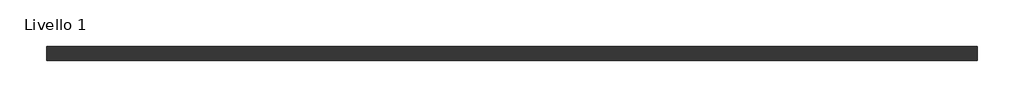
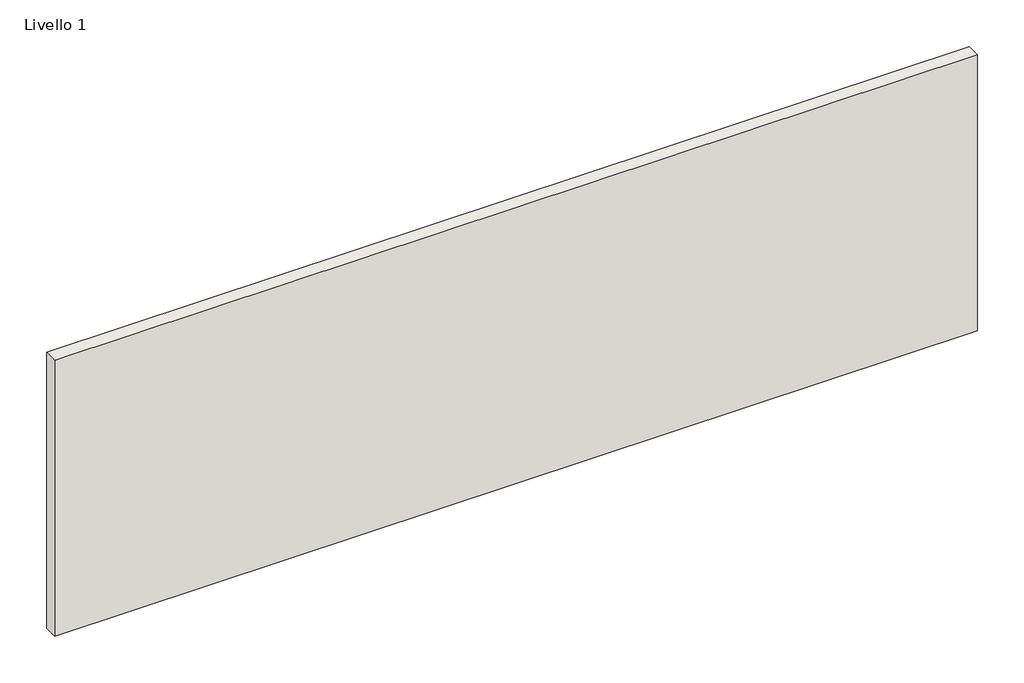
# One storey: 1 wall.
"""IFC4 building model written with IfcOpenShell, lengths in millimetres."""

import ifcopenshell
import ifcopenshell.guid

model = None  # the IFC model being written
_history = None  # IfcOwnerHistory: only IFC2X3 demands one
_inside = {}  # id of a spatial element -> (the spatial element, [elements in it])
_under = {}  # id of a project, library or spatial element -> (it, [spatial elements below it])
_declared = {}  # id of a project -> (the project, [libraries it declares])
_typed = {}  # id of a type object -> (the type object, [elements of that type])
_made_of = {}  # id of a material, layer set ... -> (it, [elements and type objects made of it])


def new_model(schema):
    """Start an empty IFC model of exactly this schema.

    Asked for "IFC4X3", IfcOpenShell would pick the latest addendum, in which some entities
    have other attributes; the version numbers below select the first issue.
    IFC2X3 requires an IfcOwnerHistory on every rooted entity: one is made here for all.
    """
    global model, _history
    if schema == "IFC4X3":
        model = ifcopenshell.file(schema_version=(4, 3, 0, 0))
    else:
        model = ifcopenshell.file(schema=schema)
    _inside.clear()
    _under.clear()
    _declared.clear()
    _typed.clear()
    _made_of.clear()
    _history = None
    if model.schema == "IFC2X3":
        org = make("IfcOrganization", Name="unknown")
        user = make(
            "IfcPersonAndOrganization",
            ThePerson=make("IfcPerson", FamilyName="unknown"),
            TheOrganization=org,
        )
        app = make(
            "IfcApplication",
            ApplicationDeveloper=org,
            Version="unknown",
            ApplicationFullName="unknown",
            ApplicationIdentifier="unknown",
        )
        _history = make(
            "IfcOwnerHistory",
            OwningUser=user,
            OwningApplication=app,
            ChangeAction="ADDED",
            CreationDate=0,
        )
    return model


def make(cls, **values):
    """One entity of the class cls with the attributes given. An attribute that is None is left unset."""
    return model.create_entity(
        cls, **{name: value for name, value in values.items() if value is not None}
    )


def rooted(cls, **values):
    """An entity with a GlobalId (a new one), such as an element, a storey or a relation."""
    return make(cls, GlobalId=ifcopenshell.guid.new(), OwnerHistory=_history, **values)


def si_unit(unit_type, name, prefix=None):
    """IfcSIUnit, for example si_unit("LENGTHUNIT", "METRE", prefix="MILLI")."""
    return make("IfcSIUnit", UnitType=unit_type, Prefix=prefix, Name=name)


def assignment(units):
    """IfcUnitAssignment: the units of a project."""
    return None if units is None else make("IfcUnitAssignment", Units=units)


def point(xyz):
    """IfcCartesianPoint."""
    return None if xyz is None else make("IfcCartesianPoint", Coordinates=xyz)


def direction(xyz):
    """IfcDirection."""
    return None if xyz is None else make("IfcDirection", DirectionRatios=xyz)


def frame(location, z_axis=None, x_axis=None):
    """IfcAxis2Placement3D, a coordinate frame: its origin and axes. An axis left out is left unset."""
    return make(
        "IfcAxis2Placement3D",
        Location=point(location),
        Axis=direction(z_axis),
        RefDirection=direction(x_axis),
    )


def origin():
    """The frame at (0, 0, 0) with its axes left unset."""
    return frame((0.0, 0.0, 0.0))


def origin_with_axes():
    """The frame at (0, 0, 0) with the z axis (0, 0, 1) and the x axis (1, 0, 0) written out."""
    return frame((0.0, 0.0, 0.0), z_axis=(0.0, 0.0, 1.0), x_axis=(1.0, 0.0, 0.0))


def place(relative_to, where):
    """IfcLocalPlacement: puts the frame where relative to a parent placement (None: the world)."""
    return make(
        "IfcLocalPlacement", PlacementRelTo=relative_to, RelativePlacement=where
    )


def context(
    kind, dimensions, precision=None, world=None, true_north=None, identifier=None
):
    """IfcGeometricRepresentationContext, for example the 3D "Model" context."""
    return make(
        "IfcGeometricRepresentationContext",
        ContextIdentifier=identifier,
        ContextType=kind,
        CoordinateSpaceDimension=dimensions,
        Precision=precision,
        WorldCoordinateSystem=world,
        TrueNorth=true_north,
    )


def project(units=None, contexts=None):
    """IfcProject with its units and contexts."""
    return rooted(
        "IfcProject",
        Name="project",
        RepresentationContexts=contexts,
        UnitsInContext=assignment(units),
    )


def spatial(cls, under=None, at=None, **own):
    """A site, building, storey or space (cls), placed at a placement, below another one or the project."""
    s = rooted(cls, ObjectPlacement=at, **own)
    if under is not None:
        _under.setdefault(under.id(), (under, []))[1].append(s)
    return s


def polyline(points):
    """IfcPolyline through the points."""
    return make("IfcPolyline", Points=[point(p) for p in points])


def outline(outer, holes=None, kind="AREA"):
    """IfcArbitraryClosedProfileDef: a profile drawn as a closed curve; with holes, ...WithVoids."""
    if holes is None:
        return make("IfcArbitraryClosedProfileDef", ProfileType=kind, OuterCurve=outer)
    return make(
        "IfcArbitraryProfileDefWithVoids",
        ProfileType=kind,
        OuterCurve=outer,
        InnerCurves=holes,
    )


def extrude(swept, where, along, depth):
    """IfcExtrudedAreaSolid: the profile swept, set in the frame where, extruded along a direction by depth."""
    return make(
        "IfcExtrudedAreaSolid",
        SweptArea=swept,
        Position=where,
        ExtrudedDirection=direction(along),
        Depth=depth,
    )


def shape(context_of_items, identifier, shape_type, items):
    """IfcShapeRepresentation: the items that make up one representation, for example the "Body"."""
    return make(
        "IfcShapeRepresentation",
        ContextOfItems=context_of_items,
        RepresentationIdentifier=identifier,
        RepresentationType=shape_type,
        Items=items,
    )


def made_of(thing, what):
    """Note that an element or type object is made of a material, layer set ...; save() writes the relation."""
    if what is not None:
        _made_of.setdefault(what.id(), (what, []))[1].append(thing)
    return thing


def element(
    cls,
    number,
    at=None,
    inside=None,
    cuts=None,
    type_object=None,
    material=None,
    context=None,
    identifier="Body",
    shape_type=None,
    held_by="IfcProductDefinitionShape",
    body=None,
    shapes=None,
    **own,
):
    """One element of the class cls, such as IfcWall. Its Tag is "e" and its number.

    at: its placement. inside: the storey or other place that contains it. cuts: it is an
    opening in that element (IfcRelVoidsElement). A single representation is given by context,
    identifier, shape_type and body (its items); several are given by shapes. held_by: the class
    of the entity that holds the representations. save() writes the other relations.
    """
    e = rooted(cls, Tag="e%d" % number, ObjectPlacement=at, **own)
    if body is not None:
        shapes = [shape(context, identifier, shape_type, body)]
    if shapes is not None:
        e.Representation = make(held_by, Representations=shapes)
    if inside is not None:
        _inside.setdefault(inside.id(), (inside, []))[1].append(e)
    if cuts is not None:
        rooted(
            "IfcRelVoidsElement", RelatingBuildingElement=cuts, RelatedOpeningElement=e
        )
    if type_object is not None:
        _typed.setdefault(type_object.id(), (type_object, []))[1].append(e)
    return made_of(e, material)


def aggregate(whole, parts):
    """IfcRelAggregates: a whole, such as a stair, and the parts it consists of."""
    return rooted("IfcRelAggregates", RelatingObject=whole, RelatedObjects=parts)


def save(model, path):
    """Write the relations noted so far, then the file.

    IfcRelAggregates (storeys below a building ...), IfcRelContainedInSpatialStructure (elements
    in a storey), IfcRelDefinesByType, IfcRelAssociatesMaterial and IfcRelDeclares: one each for
    every whole, place, type object, material and project.
    """
    for whole, parts in _under.values():
        aggregate(whole, parts)
    for where, things in _inside.values():
        rooted(
            "IfcRelContainedInSpatialStructure",
            RelatedElements=things,
            RelatingStructure=where,
        )
    for kind, things in _typed.values():
        rooted("IfcRelDefinesByType", RelatedObjects=things, RelatingType=kind)
    for what, things in _made_of.values():
        rooted("IfcRelAssociatesMaterial", RelatedObjects=things, RelatingMaterial=what)
    for by, libraries in _declared.values():
        rooted("IfcRelDeclares", RelatingContext=by, RelatedDefinitions=libraries)
    model.write(path)


model = new_model("IFC4")

# Units and contexts
model_context = context("Model", 3, world=origin())
ifc_project = project(units=[si_unit("LENGTHUNIT", "METRE", prefix="MILLI")], contexts=[model_context])

# Site, building, storey
site = spatial("IfcSite", under=ifc_project)
building = spatial("IfcBuilding", under=site)
storey = spatial("IfcBuildingStorey", under=building, Name="Livello 1", Elevation=0.0)

# Wall
placement = place(None, origin())
element("IfcWall", 1, ObjectType="Isoplam  - Rivestimento Oxydecor", at=placement, inside=storey, context=model_context, shape_type="SweptSolid", body=[
    extrude(outline(polyline([(4501.6194671, -2721.5673915), (-5298.3805329, -2721.5673915), (-5298.3805329, -2571.5673915), (4501.6194671, -2571.5673915), (4501.6194671, -2721.5673915)])), origin_with_axes(), (0.0, 0.0, 1.0), 3100.0),
])

save(model, "model.ifc")
